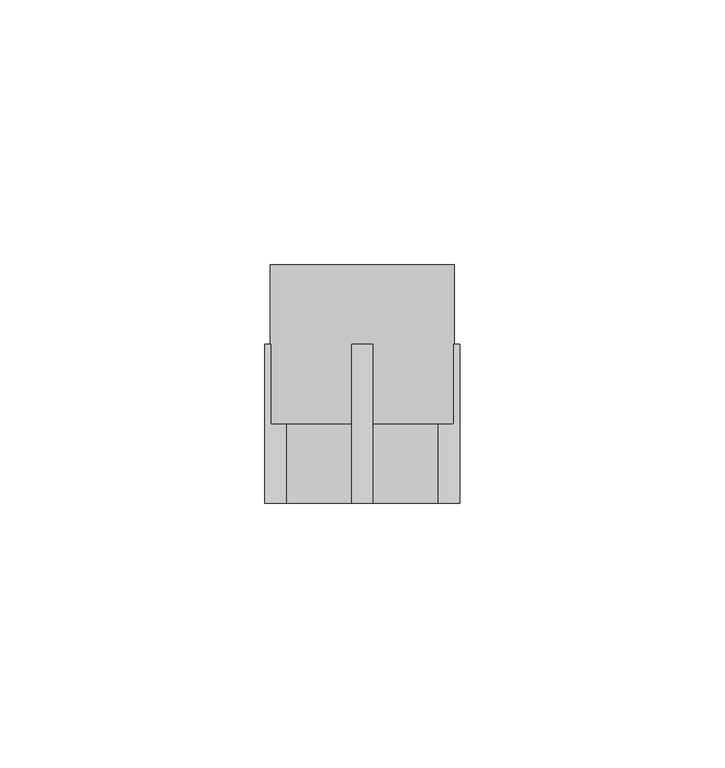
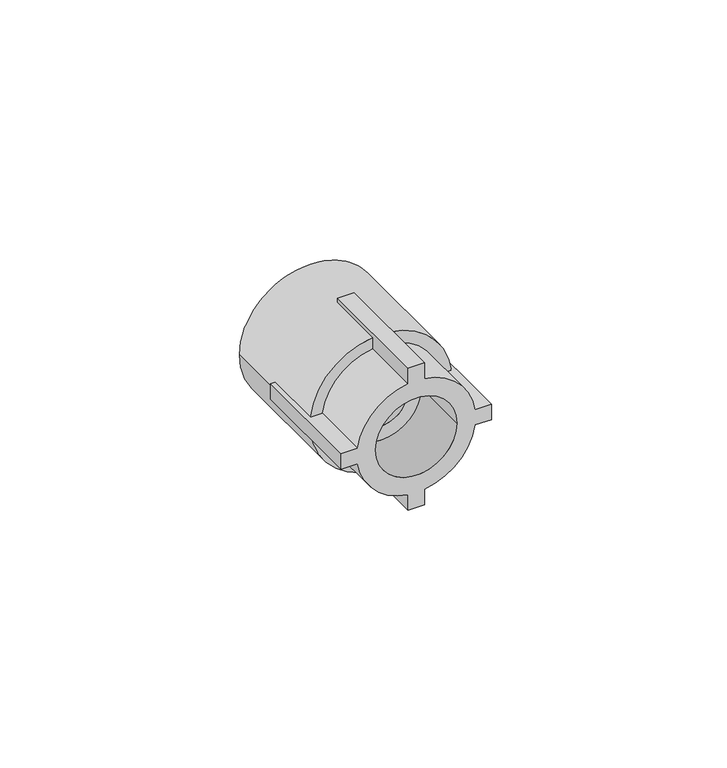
"""IFC4 building model written with IfcOpenShell, lengths in millimetres: pipe fitting geometry, EGB_VASEN_ PPR_Entronque rosca hembra WXR102 : Entronque rosca hembra WXR102."""

from ifc_helpers import new_model, si_unit, point, frame, origin, origin_2d, place, context, project, spatial, polyline, circle_curve, trimmed, segment, composite_curve, outline, extrude, source, transform, mapped, element, save
from ifc_brep_helpers import plane_surface, cylinder_surface, revolved_surface, advanced_brep


def pipe_fitting_84b10e75(model_context):
    return source(origin(), model_context, "Body", "SolidModel", [
        advanced_brep(
        [(2.0, -15.0, 18.4), (-2.0, -15.0, 18.4), (-2.0, -15.0, 14.3614066), (-14.3614066, -15.0, 2.0), (-18.4, -15.0, 2.0), (-18.4, -15.0, -2.0), (-14.3614066, -15.0, -2.0), (-2.0, -15.0, -14.3614066), (-2.0, -15.0, -18.4), (2.0, -15.0, -18.4), (2.0, -15.0, -14.3614066), (14.3614066, -15.0, -2.0), (18.4, -15.0, -2.0), (18.4, -15.0, 2.0), (14.3614066, -15.0, 2.0), (2.0, -15.0, 14.3614066), (-10.0, -15.0, 0.0), (10.0, -15.0, 0.0), (-2.0, 15.0, 18.4), (2.0, 15.0, 18.4), (2.0, 15.0, 17.2846753), (-2.0, 15.0, 17.2846753), (2.0, 15.0, -18.4), (-2.0, 15.0, -18.4), (-2.0, 15.0, -17.2846753), (2.0, 15.0, -17.2846753), (18.4, 15.0, 2.0), (18.4, 15.0, -2.0), (17.2846753, 15.0, -2.0), (17.4, 15.0, 0.0), (17.2846753, 15.0, 2.0), (-18.4, 15.0, -2.0), (-18.4, 15.0, 2.0), (-17.2846753, 15.0, 2.0), (-17.4, 15.0, 0.0), (-17.2846753, 15.0, -2.0), (2.0, 0.0, 14.3614066), (2.0, 0.0, 17.2846753), (-2.0, 0.0, 17.2846753), (-2.0, 0.0, 14.3614066), (2.0, 0.0, -17.2846753), (2.0, 0.0, -14.3614066), (-2.0, 0.0, -14.3614066), (-2.0, 0.0, -17.2846753), (14.3614066, 0.0, -2.0), (17.2846753, 0.0, -2.0), (17.2846753, 0.0, 2.0), (14.3614066, 0.0, 2.0), (-17.2846753, 0.0, -2.0), (-14.3614066, 0.0, -2.0), (-14.3614066, 0.0, 2.0), (-17.2846753, 0.0, 2.0), (-10.0, 0.0, 0.0), (10.0, 0.0, 0.0), (-6.35, 0.0, 0.0), (6.35, 0.0, 0.0), (-17.4, 30.0, 0.0), (17.4, 30.0, 0.0), (-6.35, 30.0, 0.0), (6.35, 30.0, 0.0)],
        [
            (0, 1),
            (1, 2),
            (2, 3, circle_curve(frame((0.0, -15.0, 0.0), z_axis=(0.0, -1.0, 0.0), x_axis=(1.0, 0.0, 0.0)), 14.5)),
            (3, 4),
            (4, 5),
            (5, 6),
            (6, 7, circle_curve(frame((0.0, -15.0, 0.0), z_axis=(0.0, -1.0, 0.0), x_axis=(1.0, 0.0, 0.0)), 14.5)),
            (7, 8),
            (8, 9),
            (9, 10),
            (10, 11, circle_curve(frame((0.0, -15.0, 0.0), z_axis=(0.0, -1.0, 0.0), x_axis=(1.0, 0.0, 0.0)), 14.5)),
            (11, 12),
            (12, 13),
            (13, 14),
            (14, 15, circle_curve(frame((0.0, -15.0, 0.0), z_axis=(0.0, -1.0, 0.0), x_axis=(1.0, 0.0, 0.0)), 14.5)),
            (15, 0),
            (16, 17, circle_curve(frame((0.0, -15.0, 0.0), z_axis=(0.0, 1.0, 0.0), x_axis=(1.0, 0.0, 0.0)), 10.0)),
            (17, 16, circle_curve(frame((0.0, -15.0, 0.0), z_axis=(0.0, 1.0, 0.0), x_axis=(1.0, 0.0, 0.0)), 10.0)),
            (18, 19),
            (19, 20),
            (20, 21, circle_curve(frame((0.0, 15.0, 0.0), z_axis=(0.0, -1.0, 0.0), x_axis=(1.0, 0.0, 0.0)), 17.4)),
            (21, 18),
            (22, 23),
            (23, 24),
            (24, 25, circle_curve(frame((0.0, 15.0, 0.0), z_axis=(0.0, -1.0, 0.0), x_axis=(1.0, 0.0, 0.0)), 17.4)),
            (25, 22),
            (26, 27),
            (27, 28),
            (28, 29, circle_curve(frame((0.0, 15.0, 0.0), z_axis=(0.0, -1.0, 0.0), x_axis=(1.0, 0.0, 0.0)), 17.4)),
            (29, 30, circle_curve(frame((0.0, 15.0, 0.0), z_axis=(0.0, -1.0, 0.0), x_axis=(1.0, 0.0, 0.0)), 17.4)),
            (30, 26),
            (31, 32),
            (32, 33),
            (33, 34, circle_curve(frame((0.0, 15.0, 0.0), z_axis=(0.0, -1.0, 0.0), x_axis=(1.0, 0.0, 0.0)), 17.4)),
            (34, 35, circle_curve(frame((0.0, 15.0, 0.0), z_axis=(0.0, -1.0, 0.0), x_axis=(1.0, 0.0, 0.0)), 17.4)),
            (35, 31),
            (19, 0),
            (15, 36),
            (36, 37),
            (37, 20),
            (18, 1),
            (21, 38),
            (38, 39),
            (39, 2),
            (8, 23),
            (22, 9),
            (25, 40),
            (40, 41),
            (41, 10),
            (7, 42),
            (42, 43),
            (43, 24),
            (27, 12),
            (11, 44),
            (44, 45),
            (45, 28),
            (26, 13),
            (30, 46),
            (46, 47),
            (47, 14),
            (5, 31),
            (35, 48),
            (48, 49),
            (49, 6),
            (32, 4),
            (3, 50),
            (50, 51),
            (51, 33),
            (49, 42, circle_curve(frame((0.0, 0.0, 0.0), z_axis=(0.0, -1.0, 0.0), x_axis=(1.0, 0.0, 0.0)), 14.5)),
            (41, 44, circle_curve(frame((0.0, 0.0, 0.0), z_axis=(0.0, -1.0, 0.0), x_axis=(1.0, 0.0, 0.0)), 14.5)),
            (39, 50, circle_curve(frame((0.0, 0.0, 0.0), z_axis=(0.0, -1.0, 0.0), x_axis=(1.0, 0.0, 0.0)), 14.5)),
            (47, 36, circle_curve(frame((0.0, 0.0, 0.0), z_axis=(0.0, -1.0, 0.0), x_axis=(1.0, 0.0, 0.0)), 14.5)),
            (16, 52),
            (52, 53, circle_curve(frame((0.0, 0.0, 0.0), z_axis=(0.0, 1.0, 0.0), x_axis=(1.0, 0.0, 0.0)), 10.0)),
            (53, 17),
            (53, 52, circle_curve(frame((0.0, 0.0, 0.0), z_axis=(0.0, 1.0, 0.0), x_axis=(1.0, 0.0, 0.0)), 10.0)),
            (54, 55, circle_curve(frame((0.0, 0.0, 0.0), z_axis=(0.0, 1.0, 0.0), x_axis=(1.0, 0.0, 0.0)), 6.35)),
            (55, 54, circle_curve(frame((0.0, 0.0, 0.0), z_axis=(0.0, 1.0, 0.0), x_axis=(1.0, 0.0, 0.0)), 6.35)),
            (40, 45, circle_curve(frame((0.0, 0.0, 0.0), z_axis=(0.0, -1.0, 0.0), x_axis=(1.0, 0.0, 0.0)), 17.4)),
            (48, 43, circle_curve(frame((0.0, 0.0, 0.0), z_axis=(0.0, -1.0, 0.0), x_axis=(1.0, 0.0, 0.0)), 17.4)),
            (46, 37, circle_curve(frame((0.0, 0.0, 0.0), z_axis=(0.0, -1.0, 0.0), x_axis=(1.0, 0.0, 0.0)), 17.4)),
            (38, 51, circle_curve(frame((0.0, 0.0, 0.0), z_axis=(0.0, -1.0, 0.0), x_axis=(1.0, 0.0, 0.0)), 17.4)),
            (56, 57, circle_curve(frame((0.0, 30.0, 0.0), z_axis=(0.0, 1.0, 0.0), x_axis=(1.0, 0.0, 0.0)), 17.4)),
            (57, 56, circle_curve(frame((0.0, 30.0, 0.0), z_axis=(0.0, 1.0, 0.0), x_axis=(1.0, 0.0, 0.0)), 17.4)),
            (58, 59, circle_curve(frame((0.0, 30.0, 0.0), z_axis=(0.0, -1.0, 0.0), x_axis=(1.0, 0.0, 0.0)), 6.35)),
            (59, 58, circle_curve(frame((0.0, 30.0, 0.0), z_axis=(0.0, -1.0, 0.0), x_axis=(1.0, 0.0, 0.0)), 6.35)),
            (57, 29),
            (34, 56),
            (54, 58),
            (59, 55),
        ],
        [
            plane_surface(frame((0.0, -15.0, 0.0), z_axis=(0.0, -1.0, 0.0), x_axis=(0.0, 0.0, 1.0))),
            plane_surface(frame((0.0, 15.0, 0.0), z_axis=(0.0, 1.0, 0.0), x_axis=(0.0, 0.0, 1.0))),
            plane_surface(frame((2.0, -15.0, 13.5), z_axis=(1.0, 0.0, 0.0), x_axis=(0.0, 1.0, 0.0))),
            plane_surface(frame((2.0, -15.0, 18.4), z_axis=(0.0, 0.0, 1.0), x_axis=(0.0, 1.0, 0.0))),
            plane_surface(frame((-2.0, -15.0, 18.4), z_axis=(-1.0, 0.0, 0.0), x_axis=(0.0, 1.0, 0.0))),
            plane_surface(frame((-2.0, -15.0, -18.4), z_axis=(0.0, 0.0, -1.0), x_axis=(0.0, 1.0, 0.0))),
            plane_surface(frame((2.0, -15.0, -18.4), z_axis=(1.0, 0.0, 0.0), x_axis=(0.0, 1.0, 0.0))),
            plane_surface(frame((-2.0, -15.0, -13.5), z_axis=(-1.0, 0.0, 0.0), x_axis=(0.0, 1.0, 0.0))),
            plane_surface(frame((13.5, -15.0, -2.0), z_axis=(0.0, 0.0, -1.0), x_axis=(0.0, 1.0, 0.0))),
            plane_surface(frame((18.4, -15.0, -2.0), z_axis=(1.0, 0.0, 0.0), x_axis=(0.0, 1.0, 0.0))),
            plane_surface(frame((18.4, -15.0, 2.0), z_axis=(0.0, 0.0, 1.0), x_axis=(0.0, 1.0, 0.0))),
            plane_surface(frame((-18.4, -15.0, -2.0), z_axis=(0.0, 0.0, -1.0), x_axis=(0.0, 1.0, 0.0))),
            plane_surface(frame((-13.5, -15.0, 2.0), z_axis=(0.0, 0.0, 1.0), x_axis=(0.0, 1.0, 0.0))),
            plane_surface(frame((-18.4, -15.0, 2.0), z_axis=(-1.0, 0.0, 0.0), x_axis=(0.0, 1.0, 0.0))),
            cylinder_surface(frame((0.0, 0.0, 0.0), z_axis=(0.0, -1.0, 0.0), x_axis=(1.0, 0.0, 0.0)), 14.5),
            revolved_surface(polyline([(10.0, 0.0, 0.0), (10.0, -15.0, 0.0)]), (0.0, 0.0, 0.0), (0.0, 1.0, 0.0)),
            plane_surface(frame((17.4, 0.0, 0.0), z_axis=(0.0, -1.0, 0.0), x_axis=(0.0, 0.0, 1.0))),
            plane_surface(frame((17.4, 30.0, 0.0), z_axis=(0.0, 1.0, 0.0), x_axis=(0.0, 0.0, -1.0))),
            cylinder_surface(frame((0.0, 30.0, 0.0), z_axis=(0.0, -1.0, 0.0), x_axis=(1.0, 0.0, 0.0)), 17.4),
            revolved_surface(polyline([(6.35, 30.0, 0.0), (6.35, 0.0, 0.0)]), (0.0, 0.0, 0.0), (0.0, 1.0, 0.0)),
        ],
        [
            (0, [[1, 2, 3, 4, 5, 6, 7, 8, 9, 10, 11, 12, 13, 14, 15, 16], [17, 18]]),
            (1, [[19, 20, 21, 22]]),
            (1, [[23, 24, 25, 26]]),
            (1, [[27, 28, 29, 30, 31]]),
            (1, [[32, 33, 34, 35, 36]]),
            (2, [[37, -16, 38, 39, 40, -20]]),
            (3, [[-1, -37, -19, 41]]),
            (4, [[-41, -22, 42, 43, 44, -2]]),
            (5, [[-9, 45, -23, 46]]),
            (6, [[-46, -26, 47, 48, 49, -10]]),
            (7, [[-45, -8, 50, 51, 52, -24]]),
            (8, [[53, -12, 54, 55, 56, -28]]),
            (9, [[-13, -53, -27, 57]]),
            (10, [[-57, -31, 58, 59, 60, -14]]),
            (11, [[61, -36, 62, 63, 64, -6]]),
            (12, [[65, -4, 66, 67, 68, -33]]),
            (13, [[-5, -65, -32, -61]]),
            (14, [[-7, -64, 69, -50]]),
            (14, [[-11, -49, 70, -54]]),
            (14, [[-3, -44, 71, -66]]),
            (14, [[-15, -60, 72, -38]]),
            (15, [[-17, 73, 74, 75]]),
            (15, [[-18, -75, 76, -73]]),
            (16, [[-74, -76], [77, 78]]),
            (16, [[79, -55, -70, -48]]),
            (16, [[80, -51, -69, -63]]),
            (16, [[81, -39, -72, -59]]),
            (16, [[82, -67, -71, -43]]),
            (17, [[83, 84], [85, 86]]),
            (18, [[-84, 87, -29, -56, -79, -47, -25, -52, -80, -62, -35, 88]]),
            (18, [[-83, -88, -34, -68, -82, -42, -21, -40, -81, -58, -30, -87]]),
            (19, [[-77, 89, -86, 90]]),
            (19, [[-78, -90, -85, -89]]),
        ],
    ),
        extrude(outline(composite_curve([segment(trimmed(circle_curve(origin_2d(), 6.35), [point((0.0, -6.35))], [point((0.0, 6.35))], False, "CARTESIAN"), True, "CONTINUOUS"), segment(trimmed(circle_curve(origin_2d(), 6.35), [point((0.0, 6.35))], [point((0.0, -6.35))], False, "CARTESIAN"), True, "CONTINUOUS")], self_intersect=False)), frame((0.0, 15.0, 0.0), z_axis=(0.0, 1.0, 0.0), x_axis=(0.0, 0.0, 1.0)), (0.0, 0.0, 1.0), 15.0),
    ])


if __name__ == "__main__":
    model = new_model("IFC4")
    model_context = context("Model", 3, world=origin())
    ifc_project = project(units=[si_unit("LENGTHUNIT", "METRE", prefix="MILLI")], contexts=[model_context])
    site = spatial("IfcSite", under=ifc_project)
    building = spatial("IfcBuilding", under=site)
    placement = place(None, origin())
    pipe_fitting_shape = pipe_fitting_84b10e75(model_context)
    element("IfcPipeFitting", 1, ObjectType="EGB_VASEN_ PPR_Entronque rosca hembra WXR102 : Entronque rosca hembra WXR102", at=placement, inside=building, context=model_context, shape_type="MappedRepresentation", body=[
        mapped(pipe_fitting_shape, transform((0.0, 0.0, 0.0), x_axis=(1.0, 0.0, 0.0), y_axis=(0.0, 1.0, 0.0), z_axis=(0.0, 0.0, 1.0))),
    ])
    save(model, "model.ifc")
